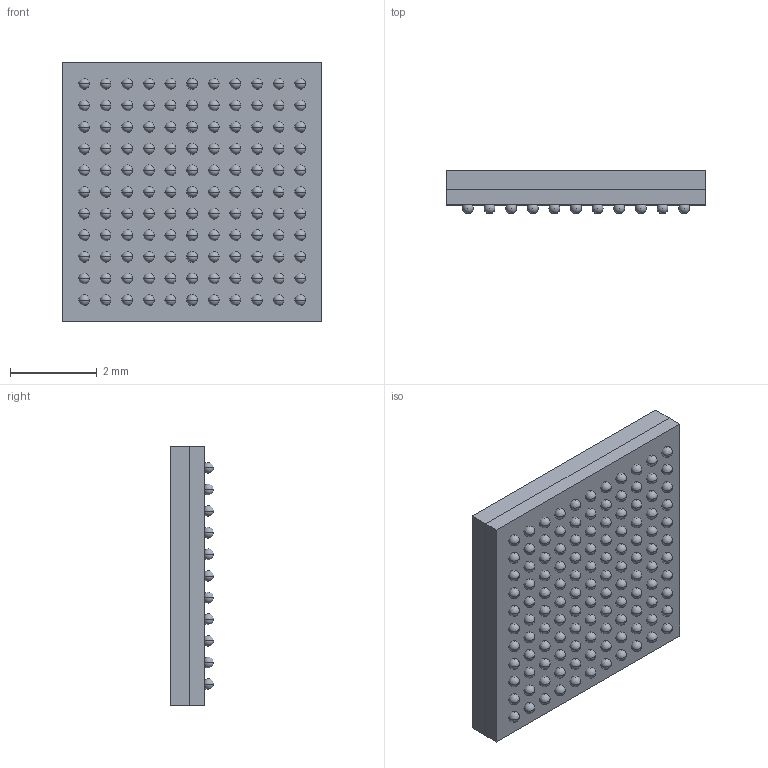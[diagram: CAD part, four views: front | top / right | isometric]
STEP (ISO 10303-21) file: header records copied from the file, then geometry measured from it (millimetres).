
FILE_DESCRIPTION (( 'STEP AP214' ), '1' );
FILE_NAME ( 'BGA121C50P11X11_600X600X100.STEP', '2013-08-19T11:17:09', ( '' ), ( '' ), 'FPX Expert 2013', 'PCB Libraries', '' );
FILE_SCHEMA (( 'AUTOMOTIVE_DESIGN' ));
Length unit declared in the file: millimetre
Products named in the file (1): BGA121C50P11X11_600X600X100
Bounding box: 6 x 1 x 6 mm (x, y, z)
Volume: 29.7 mm3; surface area: 187 mm2
Topology: 123 solids, 123 shells, 257 faces, 877 edges, 625 vertices
Faces by surface type: sphere 242, plane 13, torus 2
Entity records: 6152 total; most frequent: DIRECTION 1036, CARTESIAN_POINT 792, ORIENTED_EDGE 544, AXIS2_PLACEMENT_3D 506, STYLED_ITEM 373, PRESENTATION_LAYER_ASSIGNMENT 373, MECHANICAL_DESIGN_GEOMETRIC_PRESENTATION_REPRESENTATION 373, EDGE_CURVE 272
